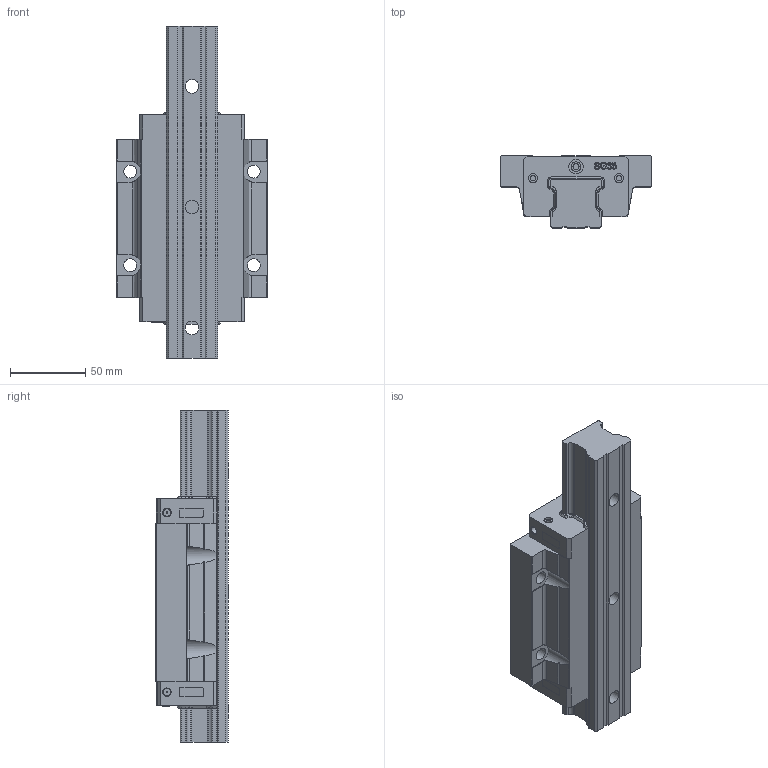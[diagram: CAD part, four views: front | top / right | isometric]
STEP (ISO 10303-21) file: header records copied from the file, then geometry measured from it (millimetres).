
FILE_DESCRIPTION(/* description */ (''),/* implementation_level */ '2;1');
FILE_NAME(/* name */ 'SGH35AL.stp',/* time_stamp */ '2021-05-27T16:19:58+08:00',/* author */ (''),/* organization */ (''),/* preprocessor_version */ 'ST-DEVELOPER v15',/* originating_system */ 'SIEMENS PLM Software NX 8.5',/* authorisation */ '');
FILE_SCHEMA (('CONFIG_CONTROL_DESIGN'));
Length unit declared in the file: millimetre
Products named in the file (1): SGH35AL
Bounding box: 100 x 48 x 220 mm (x, y, z)
Volume: 547185 mm3; surface area: 88637.9 mm2
Topology: 2 solids, 2 shells, 486 faces, 1328 edges, 883 vertices
Faces by surface type: plane 224, extrusion 122, cylinder 101, cone 39
Full cylindrical faces by diameter (mm): 1 x4, 3.5 x4, 4 x2, 5 x4, 6 x4, 6.5 x2, 8.5 x4, 9 x3, 9.5 x2, 14 x3
Entity records: 18199 total; most frequent: CARTESIAN_POINT 6328, ORIENTED_EDGE 2564, DIRECTION 2079, EDGE_CURVE 1282, VERTEX_POINT 881, VECTOR 827, LINE 705, AXIS2_PLACEMENT_3D 626
